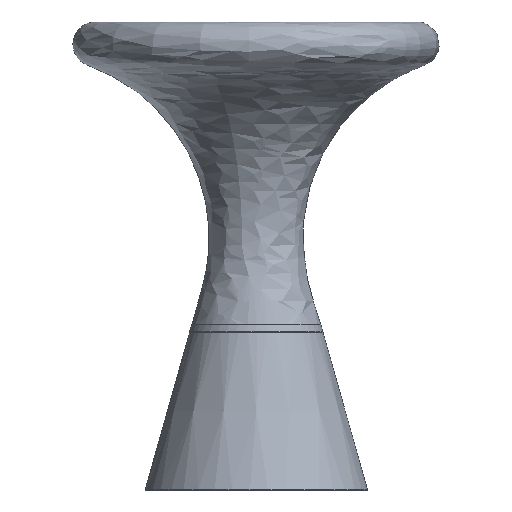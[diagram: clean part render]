
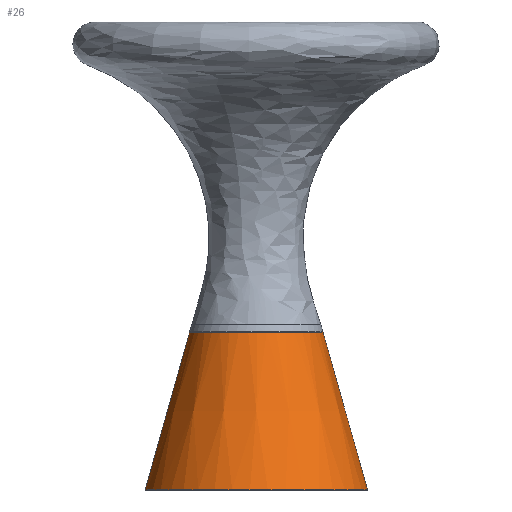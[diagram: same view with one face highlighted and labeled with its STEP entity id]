
A CAD part, front view. The second image highlights one B-rep face of the part: STEP entity #26.
In plain terms, the highlighted free-form (B-spline) face has degree [2, 2] with [3, 9] control points.
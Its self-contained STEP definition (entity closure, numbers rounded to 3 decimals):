
#26=ADVANCED_FACE('',(#44),#238,.T.);
#44=FACE_OUTER_BOUND('',#62,.T.);
#62=EDGE_LOOP('',(#91,#92,#93,#94,#95));
#91=ORIENTED_EDGE('',*,*,#157,.T.);
#92=ORIENTED_EDGE('',*,*,#153,.T.);
#93=ORIENTED_EDGE('',*,*,#157,.F.);
#94=ORIENTED_EDGE('',*,*,#159,.F.);
#95=ORIENTED_EDGE('',*,*,#160,.F.);
#153=EDGE_CURVE('',#217,#217,#188,.T.);
#157=EDGE_CURVE('',#220,#217,#192,.T.);
#159=EDGE_CURVE('',#221,#220,#194,.T.);
#160=EDGE_CURVE('',#220,#221,#195,.T.);
#188=(
BOUNDED_CURVE()
B_SPLINE_CURVE(2,(#604,#605,#606,#607,#608,#609,#610,#611,#612),
 .UNSPECIFIED.,.T.,.F.)
B_SPLINE_CURVE_WITH_KNOTS((3,2,2,2,3),(0.,94.129,
188.257,282.386,376.515),.UNSPECIFIED.)
CURVE()
GEOMETRIC_REPRESENTATION_ITEM()
RATIONAL_B_SPLINE_CURVE((1.,0.707,1.,0.707,1.,0.707,
1.,0.707,1.))
REPRESENTATION_ITEM('')
);
#192=(
BOUNDED_CURVE()
B_SPLINE_CURVE(2,(#628,#629,#630),.UNSPECIFIED.,.F.,.F.)
B_SPLINE_CURVE_WITH_KNOTS((3,3),(100.132,247.46),
 .UNSPECIFIED.)
CURVE()
GEOMETRIC_REPRESENTATION_ITEM()
RATIONAL_B_SPLINE_CURVE((1.,1.,1.))
REPRESENTATION_ITEM('')
);
#194=(
BOUNDED_CURVE()
B_SPLINE_CURVE(2,(#640,#641,#642,#643,#644,#645,#646,#647,#648),
 .UNSPECIFIED.,.F.,.F.)
B_SPLINE_CURVE_WITH_KNOTS((3,2,2,2,3),(313.192,391.766,
470.34,548.914,627.488),.UNSPECIFIED.)
CURVE()
GEOMETRIC_REPRESENTATION_ITEM()
RATIONAL_B_SPLINE_CURVE((1.,0.924,1.,0.924,1.,0.924,
1.,0.924,1.))
REPRESENTATION_ITEM('')
);
#195=(
BOUNDED_CURVE()
B_SPLINE_CURVE(2,(#649,#650,#651,#652,#653),.UNSPECIFIED.,.F.,.F.)
B_SPLINE_CURVE_WITH_KNOTS((3,2,3),(0.,156.596,313.192),
 .UNSPECIFIED.)
CURVE()
GEOMETRIC_REPRESENTATION_ITEM()
RATIONAL_B_SPLINE_CURVE((1.,0.708,1.,0.708,1.))
REPRESENTATION_ITEM('')
);
#217=VERTEX_POINT('',#559);
#220=VERTEX_POINT('',#562);
#221=VERTEX_POINT('',#563);
#238=(
BOUNDED_SURFACE()
B_SPLINE_SURFACE(2,2,((#431,#432,#433,#434,#435,#436,#437,#438,#439),(#440,
#441,#442,#443,#444,#445,#446,#447,#448),(#449,#450,#451,#452,#453,#454,
#455,#456,#457)),.UNSPECIFIED.,.F.,.F.,.F.)
B_SPLINE_SURFACE_WITH_KNOTS((3,3),(3,2,2,2,3),(100.,247.536),(0.,
156.216,312.431,468.647,624.863),
 .UNSPECIFIED.)
GEOMETRIC_REPRESENTATION_ITEM()
RATIONAL_B_SPLINE_SURFACE(((1.,0.707,1.,0.707,1.,
0.707,1.,0.707,1.),(1.,0.707,1.,0.707,
1.,0.707,1.,0.707,1.),(1.,0.707,1.,
0.707,1.,0.707,1.,0.707,1.)))
REPRESENTATION_ITEM('')
SURFACE()
);
#431=CARTESIAN_POINT('',(-100.,0.,0.));
#432=CARTESIAN_POINT('',(-100.,100.,0.));
#433=CARTESIAN_POINT('',(0.,100.,0.));
#434=CARTESIAN_POINT('',(100.,100.,0.));
#435=CARTESIAN_POINT('',(100.,0.,0.));
#436=CARTESIAN_POINT('',(100.,-100.,0.));
#437=CARTESIAN_POINT('',(0.,-100.,0.));
#438=CARTESIAN_POINT('',(-100.,-100.,0.));
#439=CARTESIAN_POINT('',(-100.,0.,0.));
#440=CARTESIAN_POINT('',(-80.,0.,71.005));
#441=CARTESIAN_POINT('',(-80.,80.,71.005));
#442=CARTESIAN_POINT('',(0.,80.,71.005));
#443=CARTESIAN_POINT('',(80.,80.,71.005));
#444=CARTESIAN_POINT('',(80.,0.,71.005));
#445=CARTESIAN_POINT('',(80.,-80.,71.005));
#446=CARTESIAN_POINT('',(0.,-80.,71.005));
#447=CARTESIAN_POINT('',(-80.,-80.,71.005));
#448=CARTESIAN_POINT('',(-80.,0.,71.005));
#449=CARTESIAN_POINT('',(-60.,0.,142.01));
#450=CARTESIAN_POINT('',(-60.,60.,142.01));
#451=CARTESIAN_POINT('',(0.,60.,142.01));
#452=CARTESIAN_POINT('',(60.,60.,142.01));
#453=CARTESIAN_POINT('',(60.,0.,142.01));
#454=CARTESIAN_POINT('',(60.,-60.,142.01));
#455=CARTESIAN_POINT('',(0.,-60.,142.01));
#456=CARTESIAN_POINT('',(-60.,-60.,142.01));
#457=CARTESIAN_POINT('',(-60.,0.,142.01));
#559=CARTESIAN_POINT('',(-60.021,0.,141.937));
#562=CARTESIAN_POINT('',(-99.964,0.,0.127));
#563=CARTESIAN_POINT('',(99.963,0.553,0.127));
#604=CARTESIAN_POINT('',(-60.021,0.,141.937));
#605=CARTESIAN_POINT('',(-60.021,60.021,141.937));
#606=CARTESIAN_POINT('',(0.,60.021,141.937));
#607=CARTESIAN_POINT('',(60.021,60.021,141.937));
#608=CARTESIAN_POINT('',(60.021,0.,141.937));
#609=CARTESIAN_POINT('',(60.021,-60.021,141.937));
#610=CARTESIAN_POINT('',(0.,-60.021,141.937));
#611=CARTESIAN_POINT('',(-60.021,-60.021,141.937));
#612=CARTESIAN_POINT('',(-60.021,0.,141.937));
#628=CARTESIAN_POINT('',(-99.964,0.,0.127));
#629=CARTESIAN_POINT('',(-79.992,0.,71.032));
#630=CARTESIAN_POINT('',(-60.021,0.,141.937));
#640=CARTESIAN_POINT('',(99.963,0.553,0.127));
#641=CARTESIAN_POINT('',(100.192,-40.934,0.127));
#642=CARTESIAN_POINT('',(70.978,-70.392,0.127));
#643=CARTESIAN_POINT('',(41.764,-99.849,0.127));
#644=CARTESIAN_POINT('',(0.276,-99.964,0.127));
#645=CARTESIAN_POINT('',(-41.211,-100.079,0.127));
#646=CARTESIAN_POINT('',(-70.588,-70.783,0.127));
#647=CARTESIAN_POINT('',(-99.964,-41.488,0.127));
#648=CARTESIAN_POINT('',(-99.964,0.,0.127));
#649=CARTESIAN_POINT('',(-99.964,0.,0.127));
#650=CARTESIAN_POINT('',(-99.964,99.688,0.127));
#651=CARTESIAN_POINT('',(-0.276,99.964,0.127));
#652=CARTESIAN_POINT('',(99.411,100.239,0.127));
#653=CARTESIAN_POINT('',(99.963,0.553,0.127));
